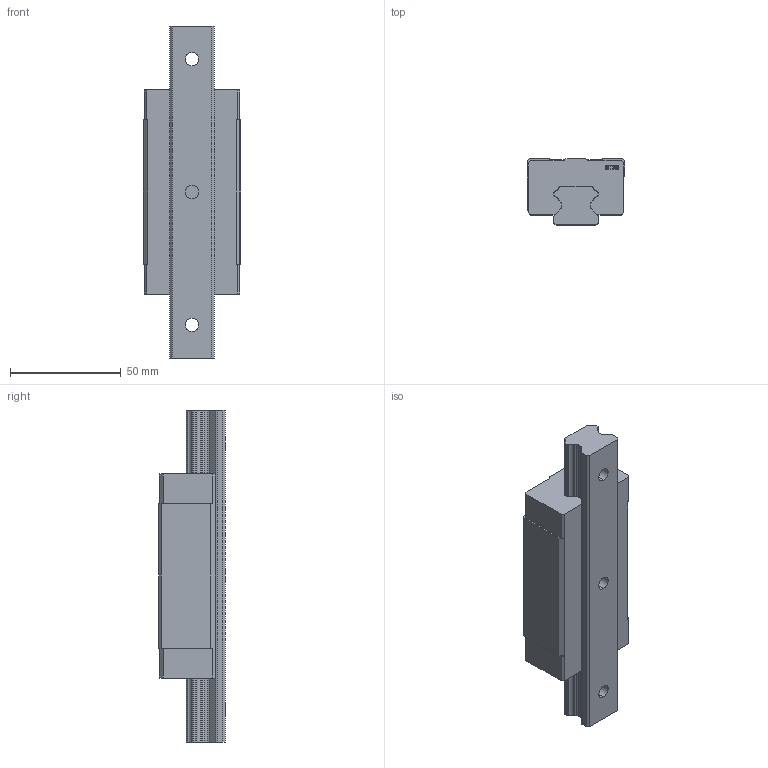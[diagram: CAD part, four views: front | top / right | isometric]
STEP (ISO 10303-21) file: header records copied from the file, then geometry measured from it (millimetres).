
FILE_DESCRIPTION (( 'STEP AP214' ), '1' );
FILE_NAME ('7.1024 Lineaarikelkka HTH20HA.STEP', '2026-03-11T06:46:32', ( '' ), ( '' ), 'SwSTEP 2.0', 'SolidWorks 2025', '' );
FILE_SCHEMA (( 'AUTOMOTIVE_DESIGN' ));
Length unit declared in the file: millimetre
Products named in the file (3): HTR20; 7.1024 Lineaarikelkka HTH20HA; HTH20H
Assembly tree (2 placements, depth 2):
  7.1024 Lineaarikelkka HTH20HA
    HTH20H
    HTR20
Bounding box: 44 x 30 x 150 mm (x, y, z)
Volume: 122641.3 mm3; surface area: 30525.1 mm2
Topology: 2 solids, 2 shells, 255 faces, 684 edges, 452 vertices
Faces by surface type: plane 165, cylinder 66, bspline 24
Entity records: 12897 total; most frequent: CARTESIAN_POINT 3616, ORIENTED_EDGE 1368, DIRECTION 1244, EDGE_CURVE 684, VECTOR 500, LINE 500, VERTEX_POINT 452, AXIS2_PLACEMENT_3D 372
